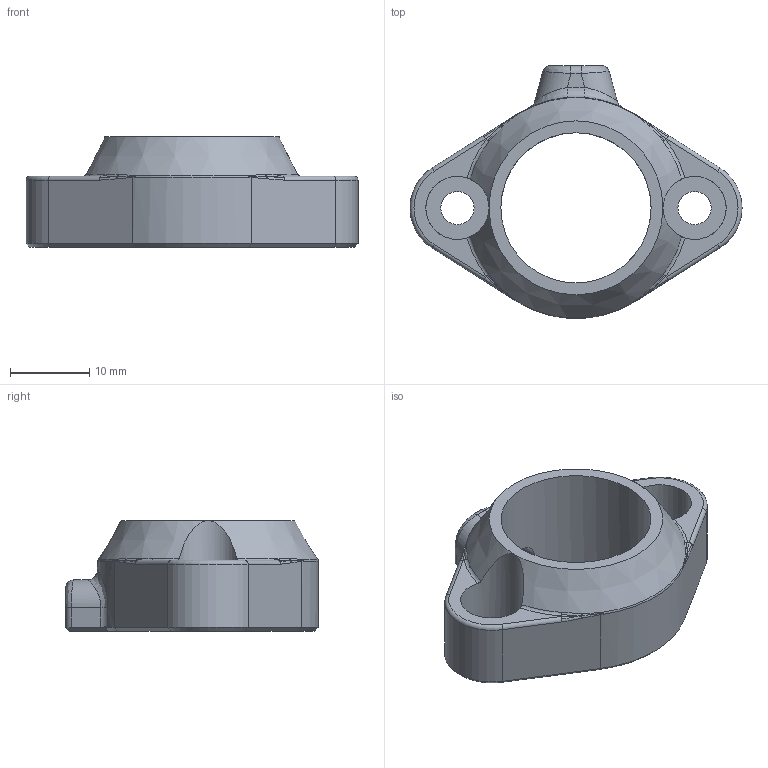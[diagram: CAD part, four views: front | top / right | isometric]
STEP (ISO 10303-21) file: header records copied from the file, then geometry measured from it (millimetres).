
FILE_DESCRIPTION(/* description */ (''),/* implementation_level */ '2;1');
FILE_NAME(/* name */ 'DIG3D.R.Button.step',/* time_stamp */ '2025-05-06T12:17:11+02:00',/* author */ (''),/* organization */ (''),/* preprocessor_version */ 'ST-DEVELOPER v20.1',/* originating_system */ 'Autodesk Translation Framework v14.4.0.0',/* authorisation */ '');
FILE_SCHEMA (('AUTOMOTIVE_DESIGN { 1 0 10303 214 3 1 1 }'));
Length unit declared in the file: millimetre
Products named in the file (1): Button
Bounding box: 42 x 31.96 x 14 mm (x, y, z)
Volume: 5021.9 mm3; surface area: 3469.6 mm2
Topology: 1 solids, 1 shells, 95 faces, 243 edges, 149 vertices
Faces by surface type: bspline 28, plane 24, cylinder 23, torus 10, cone 10
Full cylindrical faces by diameter (mm): 4.2 x2, 8 x2, 19 x1
Entity records: 7448 total; most frequent: CARTESIAN_POINT 5263, ORIENTED_EDGE 486, DIRECTION 403, EDGE_CURVE 243, AXIS2_PLACEMENT_3D 165, VERTEX_POINT 149, EDGE_LOOP 100, FACE_OUTER_BOUND 95
